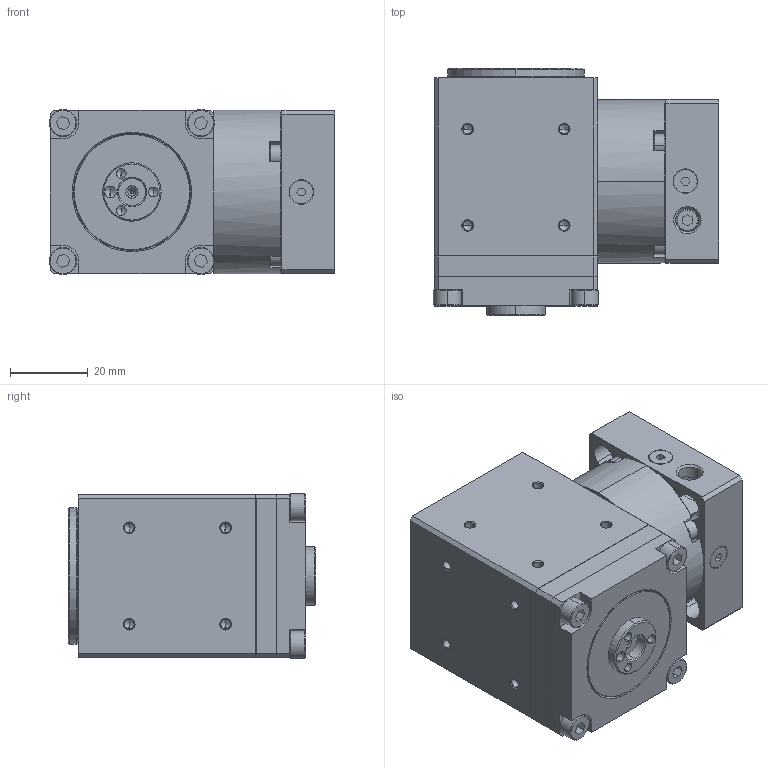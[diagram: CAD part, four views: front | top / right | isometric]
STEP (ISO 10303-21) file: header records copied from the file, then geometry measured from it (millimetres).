
FILE_DESCRIPTION (( 'STEP AP203' ), '1' );
FILE_NAME ('RLFS-042-00X.STEP', '2012-02-27T17:01:20', ( 'render' ), ( '' ), 'SwSTEP 2.0', 'SolidWorks 2011', '' );
FILE_SCHEMA (( 'CONFIG_CONTROL_DESIGN' ));
Products named in the file (1): RLFS-042-00X
Bounding box: 73.18 x 63.5 x 42.36 mm (x, y, z)
Volume: 133436.3 mm3; surface area: 78193.8 mm2
Topology: 31 solids, 31 shells, 1373 faces, 3519 edges, 2201 vertices
Faces by surface type: cylinder 468, plane 435, cone 403, bspline 67
Entity records: 48238 total; most frequent: CARTESIAN_POINT 15374, ORIENTED_EDGE 6894, DIRECTION 6838, EDGE_CURVE 3447, AXIS2_PLACEMENT_3D 2635, VERTEX_POINT 2201, EDGE_LOOP 1572, VECTOR 1568
